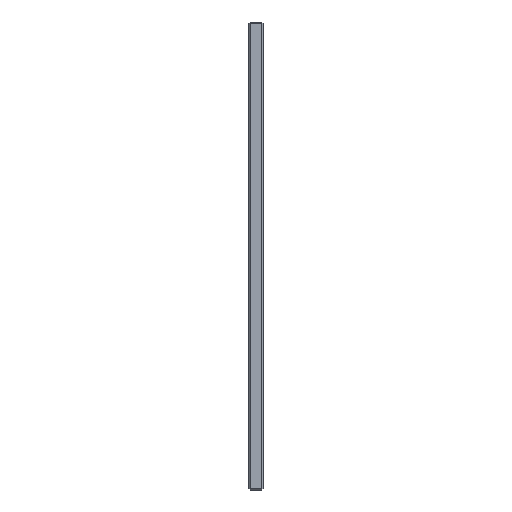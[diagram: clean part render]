
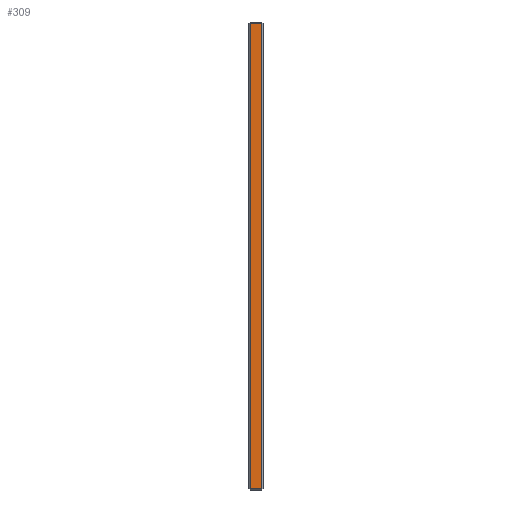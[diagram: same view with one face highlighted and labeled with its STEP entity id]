
A CAD part, left-side view. The second image highlights one B-rep face of the part: STEP entity #309.
In plain terms, the highlighted planar face has unit normal (-1, 0, 0).
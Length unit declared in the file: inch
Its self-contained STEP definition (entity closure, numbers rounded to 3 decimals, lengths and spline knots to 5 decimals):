
#17 = CARTESIAN_POINT ( 'NONE',  ( -14.6875, 0.05, -7.875 ) ) ;
#53 = LINE ( 'NONE', #1574, #1675 ) ;
#71 = EDGE_CURVE ( 'NONE', #919, #395, #1573, .T. ) ;
#136 = EDGE_LOOP ( 'NONE', ( #346, #487, #536, #1516 ) ) ;
#142 = DIRECTION ( 'NONE',  ( 1., 0., 0. ) ) ;
#149 = VERTEX_POINT ( 'NONE', #1989 ) ;
#309 = ADVANCED_FACE ( 'Placement Plane', ( #504 ), #1577, .F. ) ;
#324 = LINE ( 'NONE', #1929, #1125 ) ;
#326 = CARTESIAN_POINT ( 'NONE',  ( -14.6875, 0.05, -7.825 ) ) ;
#342 = VERTEX_POINT ( 'NONE', #1248 ) ;
#346 = ORIENTED_EDGE ( 'NONE', *, *, #1024, .T. ) ;
#359 = CARTESIAN_POINT ( 'NONE',  ( -14.6875, 0.05, 7.825 ) ) ;
#395 = VERTEX_POINT ( 'NONE', #359 ) ;
#487 = ORIENTED_EDGE ( 'NONE', *, *, #2045, .T. ) ;
#504 = FACE_OUTER_BOUND ( 'NONE', #136, .T. ) ;
#536 = ORIENTED_EDGE ( 'NONE', *, *, #71, .T. ) ;
#719 = CARTESIAN_POINT ( 'NONE',  ( -14.6875, 0.5, -7.875 ) ) ;
#799 = VECTOR ( 'NONE', #997, 39.37008 ) ;
#919 = VERTEX_POINT ( 'NONE', #326 ) ;
#997 = DIRECTION ( 'NONE',  ( 0., -1., 0. ) ) ;
#1024 = EDGE_CURVE ( 'NONE', #149, #342, #53, .T. ) ;
#1026 = LINE ( 'NONE', #1325, #799 ) ;
#1043 = DIRECTION ( 'NONE',  ( 0., 0., -1. ) ) ;
#1124 = DIRECTION ( 'NONE',  ( 0., 0., 1. ) ) ;
#1125 = VECTOR ( 'NONE', #1151, 39.37008 ) ;
#1151 = DIRECTION ( 'NONE',  ( 0., 1., 0. ) ) ;
#1248 = CARTESIAN_POINT ( 'NONE',  ( -14.6875, 0.45, -7.825 ) ) ;
#1325 = CARTESIAN_POINT ( 'NONE',  ( -14.6875, 0.5, -7.825 ) ) ;
#1489 = VECTOR ( 'NONE', #1124, 39.37008 ) ;
#1516 = ORIENTED_EDGE ( 'NONE', *, *, #1624, .T. ) ;
#1555 = DIRECTION ( 'NONE',  ( 0., 0., -1. ) ) ;
#1573 = LINE ( 'NONE', #17, #1489 ) ;
#1574 = CARTESIAN_POINT ( 'NONE',  ( -14.6875, 0.45, -7.875 ) ) ;
#1577 = PLANE ( 'NONE',  #1793 ) ;
#1624 = EDGE_CURVE ( 'NONE', #395, #149, #324, .T. ) ;
#1675 = VECTOR ( 'NONE', #1555, 39.37008 ) ;
#1793 = AXIS2_PLACEMENT_3D ( 'NONE', #719, #142, #1043 ) ;
#1929 = CARTESIAN_POINT ( 'NONE',  ( -14.6875, 0.5, 7.825 ) ) ;
#1989 = CARTESIAN_POINT ( 'NONE',  ( -14.6875, 0.45, 7.825 ) ) ;
#2045 = EDGE_CURVE ( 'NONE', #342, #919, #1026, .T. ) ;
